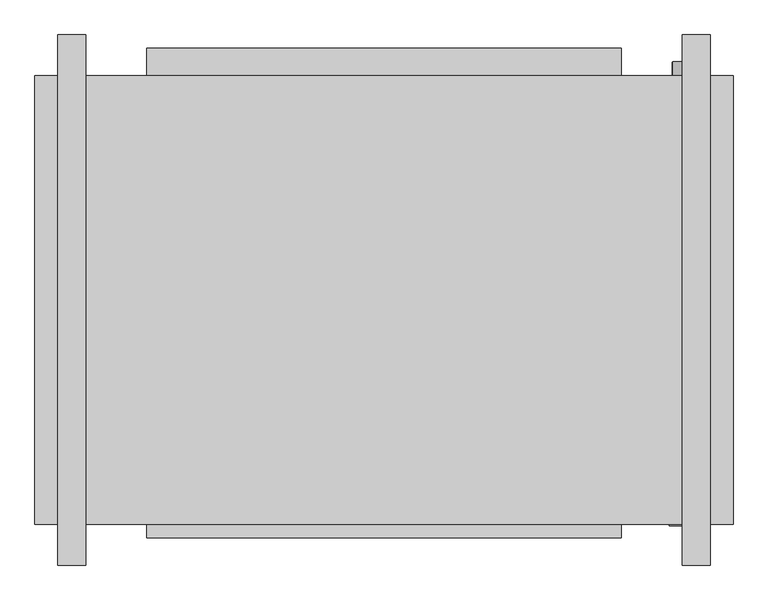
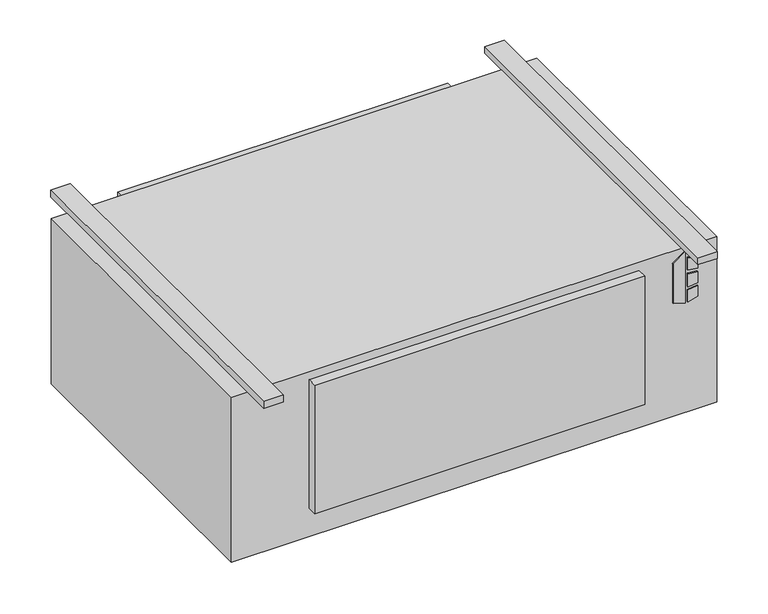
"""IFC4 building model written with IfcOpenShell, lengths in millimetres: proxy geometry, Concealed_High_Capacity_Horizontal_Cabinet_Fan_Coil_Unit_-_HXY_-_IEC_-_2-Pipe_Cool-EHeat_RH_2022 : Size 14 - 277v/60Hz/1Ph - 6 Row 10.0kW."""

import ifcopenshell
import ifcopenshell.guid

model = None  # the IFC model being written
_history = None  # IfcOwnerHistory: only IFC2X3 demands one
_inside = {}  # id of a spatial element -> (the spatial element, [elements in it])
_under = {}  # id of a project, library or spatial element -> (it, [spatial elements below it])
_declared = {}  # id of a project -> (the project, [libraries it declares])
_typed = {}  # id of a type object -> (the type object, [elements of that type])
_made_of = {}  # id of a material, layer set ... -> (it, [elements and type objects made of it])


def new_model(schema):
    """Start an empty IFC model of exactly this schema.

    Asked for "IFC4X3", IfcOpenShell would pick the latest addendum, in which some entities
    have other attributes; the version numbers below select the first issue.
    IFC2X3 requires an IfcOwnerHistory on every rooted entity: one is made here for all.
    """
    global model, _history
    if schema == "IFC4X3":
        model = ifcopenshell.file(schema_version=(4, 3, 0, 0))
    else:
        model = ifcopenshell.file(schema=schema)
    _inside.clear()
    _under.clear()
    _declared.clear()
    _typed.clear()
    _made_of.clear()
    _history = None
    if model.schema == "IFC2X3":
        org = make("IfcOrganization", Name="unknown")
        user = make(
            "IfcPersonAndOrganization",
            ThePerson=make("IfcPerson", FamilyName="unknown"),
            TheOrganization=org,
        )
        app = make(
            "IfcApplication",
            ApplicationDeveloper=org,
            Version="unknown",
            ApplicationFullName="unknown",
            ApplicationIdentifier="unknown",
        )
        _history = make(
            "IfcOwnerHistory",
            OwningUser=user,
            OwningApplication=app,
            ChangeAction="ADDED",
            CreationDate=0,
        )
    return model


def make(cls, **values):
    """One entity of the class cls with the attributes given. An attribute that is None is left unset."""
    return model.create_entity(
        cls, **{name: value for name, value in values.items() if value is not None}
    )


def rooted(cls, **values):
    """An entity with a GlobalId (a new one), such as an element, a storey or a relation."""
    return make(cls, GlobalId=ifcopenshell.guid.new(), OwnerHistory=_history, **values)


def si_unit(unit_type, name, prefix=None):
    """IfcSIUnit, for example si_unit("LENGTHUNIT", "METRE", prefix="MILLI")."""
    return make("IfcSIUnit", UnitType=unit_type, Prefix=prefix, Name=name)


def assignment(units):
    """IfcUnitAssignment: the units of a project."""
    return None if units is None else make("IfcUnitAssignment", Units=units)


def point(xyz):
    """IfcCartesianPoint."""
    return None if xyz is None else make("IfcCartesianPoint", Coordinates=xyz)


def direction(xyz):
    """IfcDirection."""
    return None if xyz is None else make("IfcDirection", DirectionRatios=xyz)


def frame(location, z_axis=None, x_axis=None):
    """IfcAxis2Placement3D, a coordinate frame: its origin and axes. An axis left out is left unset."""
    return make(
        "IfcAxis2Placement3D",
        Location=point(location),
        Axis=direction(z_axis),
        RefDirection=direction(x_axis),
    )


def frame_2d(location, x_axis=None):
    """IfcAxis2Placement2D, a coordinate frame in the plane: its origin and x axis."""
    return make(
        "IfcAxis2Placement2D", Location=point(location), RefDirection=direction(x_axis)
    )


def origin():
    """The frame at (0, 0, 0) with its axes left unset."""
    return frame((0.0, 0.0, 0.0))


def origin_with_axes():
    """The frame at (0, 0, 0) with the z axis (0, 0, 1) and the x axis (1, 0, 0) written out."""
    return frame((0.0, 0.0, 0.0), z_axis=(0.0, 0.0, 1.0), x_axis=(1.0, 0.0, 0.0))


def place(relative_to, where):
    """IfcLocalPlacement: puts the frame where relative to a parent placement (None: the world)."""
    return make(
        "IfcLocalPlacement", PlacementRelTo=relative_to, RelativePlacement=where
    )


def context(
    kind, dimensions, precision=None, world=None, true_north=None, identifier=None
):
    """IfcGeometricRepresentationContext, for example the 3D "Model" context."""
    return make(
        "IfcGeometricRepresentationContext",
        ContextIdentifier=identifier,
        ContextType=kind,
        CoordinateSpaceDimension=dimensions,
        Precision=precision,
        WorldCoordinateSystem=world,
        TrueNorth=true_north,
    )


def project(units=None, contexts=None):
    """IfcProject with its units and contexts."""
    return rooted(
        "IfcProject",
        Name="project",
        RepresentationContexts=contexts,
        UnitsInContext=assignment(units),
    )


def spatial(cls, under=None, at=None, **own):
    """A site, building, storey or space (cls), placed at a placement, below another one or the project."""
    s = rooted(cls, ObjectPlacement=at, **own)
    if under is not None:
        _under.setdefault(under.id(), (under, []))[1].append(s)
    return s


def polyline(points):
    """IfcPolyline through the points."""
    return make("IfcPolyline", Points=[point(p) for p in points])


def circle_curve(where, radius):
    """IfcCircle in the frame where."""
    return make("IfcCircle", Position=where, Radius=radius)


def trimmed(basis, trim1, trim2, sense, master):
    """IfcTrimmedCurve: the piece of a basis curve between two trims."""
    return make(
        "IfcTrimmedCurve",
        BasisCurve=basis,
        Trim1=trim1,
        Trim2=trim2,
        SenseAgreement=sense,
        MasterRepresentation=master,
    )


def segment(curve, same_sense, transition):
    """IfcCompositeCurveSegment."""
    return make(
        "IfcCompositeCurveSegment",
        Transition=transition,
        SameSense=same_sense,
        ParentCurve=curve,
    )


def composite_curve(segments, self_intersect=None):
    """IfcCompositeCurve: segments joined end to end."""
    return make("IfcCompositeCurve", Segments=segments, SelfIntersect=self_intersect)


def outline(outer, holes=None, kind="AREA"):
    """IfcArbitraryClosedProfileDef: a profile drawn as a closed curve; with holes, ...WithVoids."""
    if holes is None:
        return make("IfcArbitraryClosedProfileDef", ProfileType=kind, OuterCurve=outer)
    return make(
        "IfcArbitraryProfileDefWithVoids",
        ProfileType=kind,
        OuterCurve=outer,
        InnerCurves=holes,
    )


def extrude(swept, where, along, depth):
    """IfcExtrudedAreaSolid: the profile swept, set in the frame where, extruded along a direction by depth."""
    return make(
        "IfcExtrudedAreaSolid",
        SweptArea=swept,
        Position=where,
        ExtrudedDirection=direction(along),
        Depth=depth,
    )


def shape(context_of_items, identifier, shape_type, items):
    """IfcShapeRepresentation: the items that make up one representation, for example the "Body"."""
    return make(
        "IfcShapeRepresentation",
        ContextOfItems=context_of_items,
        RepresentationIdentifier=identifier,
        RepresentationType=shape_type,
        Items=items,
    )


def source(mapping_origin, context_of_items, identifier, shape_type, items):
    """IfcRepresentationMap: a shape defined once, which mapped items show again and again."""
    return make(
        "IfcRepresentationMap",
        MappingOrigin=mapping_origin,
        MappedRepresentation=shape(context_of_items, identifier, shape_type, items),
    )


def transform(
    local_origin,
    x_axis=None,
    y_axis=None,
    z_axis=None,
    scale=None,
    scale2=None,
    scale3=None,
    uniform=True,
):
    """IfcCartesianTransformationOperator3D, or its non-uniform kind. x_axis, y_axis, z_axis: its Axis1, 2, 3."""
    if uniform:
        return make(
            "IfcCartesianTransformationOperator3D",
            Axis1=direction(x_axis),
            Axis2=direction(y_axis),
            LocalOrigin=point(local_origin),
            Scale=scale,
            Axis3=direction(z_axis),
        )
    return make(
        "IfcCartesianTransformationOperator3DnonUniform",
        Axis1=direction(x_axis),
        Axis2=direction(y_axis),
        LocalOrigin=point(local_origin),
        Scale=scale,
        Axis3=direction(z_axis),
        Scale2=scale2,
        Scale3=scale3,
    )


def mapped(mapping_source, mapping_target):
    """IfcMappedItem: shows the shape of a source again, moved by a transform."""
    return make(
        "IfcMappedItem", MappingSource=mapping_source, MappingTarget=mapping_target
    )


def made_of(thing, what):
    """Note that an element or type object is made of a material, layer set ...; save() writes the relation."""
    if what is not None:
        _made_of.setdefault(what.id(), (what, []))[1].append(thing)
    return thing


def element(
    cls,
    number,
    at=None,
    inside=None,
    cuts=None,
    type_object=None,
    material=None,
    context=None,
    identifier="Body",
    shape_type=None,
    held_by="IfcProductDefinitionShape",
    body=None,
    shapes=None,
    **own,
):
    """One element of the class cls, such as IfcWall. Its Tag is "e" and its number.

    at: its placement. inside: the storey or other place that contains it. cuts: it is an
    opening in that element (IfcRelVoidsElement). A single representation is given by context,
    identifier, shape_type and body (its items); several are given by shapes. held_by: the class
    of the entity that holds the representations. save() writes the other relations.
    """
    e = rooted(cls, Tag="e%d" % number, ObjectPlacement=at, **own)
    if body is not None:
        shapes = [shape(context, identifier, shape_type, body)]
    if shapes is not None:
        e.Representation = make(held_by, Representations=shapes)
    if inside is not None:
        _inside.setdefault(inside.id(), (inside, []))[1].append(e)
    if cuts is not None:
        rooted(
            "IfcRelVoidsElement", RelatingBuildingElement=cuts, RelatedOpeningElement=e
        )
    if type_object is not None:
        _typed.setdefault(type_object.id(), (type_object, []))[1].append(e)
    return made_of(e, material)


def aggregate(whole, parts):
    """IfcRelAggregates: a whole, such as a stair, and the parts it consists of."""
    return rooted("IfcRelAggregates", RelatingObject=whole, RelatedObjects=parts)


def save(model, path):
    """Write the relations noted so far, then the file.

    IfcRelAggregates (storeys below a building ...), IfcRelContainedInSpatialStructure (elements
    in a storey), IfcRelDefinesByType, IfcRelAssociatesMaterial and IfcRelDeclares: one each for
    every whole, place, type object, material and project.
    """
    for whole, parts in _under.values():
        aggregate(whole, parts)
    for where, things in _inside.values():
        rooted(
            "IfcRelContainedInSpatialStructure",
            RelatedElements=things,
            RelatingStructure=where,
        )
    for kind, things in _typed.values():
        rooted("IfcRelDefinesByType", RelatedObjects=things, RelatingType=kind)
    for what, things in _made_of.values():
        rooted("IfcRelAssociatesMaterial", RelatedObjects=things, RelatingMaterial=what)
    for by, libraries in _declared.values():
        rooted("IfcRelDeclares", RelatingContext=by, RelatedDefinitions=libraries)
    model.write(path)


def mechanical_equipment_c078d1ac(model_context):
    return source(origin(), model_context, "Body", "SweptSolid", [
        extrude(outline(polyline([(-142.4519297, 671.5868862), (-152.4, 703.7602728), (-10.2290756, 703.7602728), (-33.2510817, 671.5868862), (-142.4519297, 671.5868862)])), frame((0.0, -649.2875, 0.0), z_axis=(0.0, 1.0, 0.0), x_axis=(0.0, 0.0, 1.0)), (0.0, 0.0, 1.0), 3.175),
        extrude(outline(polyline([(-63.4526443, 710.5186058), (-66.6550368, 736.6), (-37.4261958, 736.6), (-29.3617807, 710.5186058), (-63.4526443, 710.5186058)])), frame((0.0, -649.2875, 0.0), z_axis=(0.0, 1.0, 0.0), x_axis=(0.0, 0.0, 1.0)), (0.0, 0.0, 1.0), 3.175),
        extrude(outline(polyline([(-115.3161712, 736.6), (-118.9816721, 710.5186058), (-152.4, 710.5186058), (-143.7657628, 736.6), (-115.3161712, 736.6)])), frame((0.0, -649.2875, 0.0), z_axis=(0.0, 1.0, 0.0), x_axis=(0.0, 0.0, 1.0)), (0.0, 0.0, 1.0), 3.175),
        extrude(outline(polyline([(-76.0010097, 736.6), (-73.7191834, 710.5186058), (-109.6567319, 710.5186058), (-106.9154669, 736.6), (-76.0010097, 736.6)])), frame((0.0, -649.2875, 0.0), z_axis=(0.0, 1.0, 0.0), x_axis=(0.0, 0.0, 1.0)), (0.0, 0.0, 1.0), 3.175),
        extrude(outline(composite_curve([segment(trimmed(circle_curve(frame_2d((-406.4, 685.8)), 9.525), [point((-406.4, 676.275))], [point((-406.4, 695.325))], False, "CARTESIAN"), True, "CONTINUOUS"), segment(trimmed(circle_curve(frame_2d((-406.4, 685.8)), 9.525), [point((-406.4, 695.325))], [point((-406.4, 676.275))], False, "CARTESIAN"), True, "CONTINUOUS")], self_intersect=False)), frame((0.0, 169.8625, 0.0), z_axis=(0.0, 1.0, 0.0), x_axis=(0.0, 0.0, 1.0)), (0.0, 0.0, 1.0), 25.4),
        extrude(outline(composite_curve([segment(trimmed(circle_curve(frame_2d((-330.2, 685.8)), 7.9375), [point((-330.2, 677.8625))], [point((-330.2, 693.7375))], False, "CARTESIAN"), True, "CONTINUOUS"), segment(trimmed(circle_curve(frame_2d((-330.2, 685.8)), 7.9375), [point((-330.2, 693.7375))], [point((-330.2, 677.8625))], False, "CARTESIAN"), True, "CONTINUOUS")], self_intersect=False)), frame((0.0, 169.8625, 0.0), z_axis=(0.0, 1.0, 0.0), x_axis=(0.0, 0.0, 1.0)), (0.0, 0.0, 1.0), 25.4),
        extrude(outline(composite_curve([segment(trimmed(circle_curve(frame_2d((-254.0, 685.8)), 7.9375), [point((-254.0, 677.8625))], [point((-254.0, 693.7375))], False, "CARTESIAN"), True, "CONTINUOUS"), segment(trimmed(circle_curve(frame_2d((-254.0, 685.8)), 7.9375), [point((-254.0, 693.7375))], [point((-254.0, 677.8625))], False, "CARTESIAN"), True, "CONTINUOUS")], self_intersect=False)), frame((0.0, 169.8625, 0.0), z_axis=(0.0, 1.0, 0.0), x_axis=(0.0, 0.0, 1.0)), (0.0, 0.0, 1.0), 25.4),
        extrude(outline(polyline([(787.4, 169.8625), (787.4, -646.1125), (-482.6, -646.1125), (-482.6, 169.8625), (787.4, 169.8625)])), frame((0.0, 0.0, -457.2), z_axis=(0.0, 0.0, 1.0), x_axis=(1.0, 0.0, 0.0)), (0.0, 0.0, 1.0), 457.2),
        extrude(outline(polyline([(-279.4, 220.6625), (584.2, 220.6625), (584.2, 169.8625), (-279.4, 169.8625), (-279.4, 220.6625)])), frame((0.0, 0.0, -377.825), z_axis=(0.0, 0.0, 1.0), x_axis=(1.0, 0.0, 0.0)), (0.0, 0.0, 1.0), 349.25),
        extrude(outline(polyline([(-390.525, 244.475), (-390.525, -720.725), (-441.325, -720.725), (-441.325, 244.475), (-390.525, 244.475)])), origin_with_axes(), (0.0, 0.0, 1.0), 19.05),
        extrude(outline(polyline([(746.125, 244.475), (746.125, -720.725), (695.325, -720.725), (695.325, 244.475), (746.125, 244.475)])), origin_with_axes(), (0.0, 0.0, 1.0), 19.05),
        extrude(outline(polyline([(584.2, -671.5125), (-279.4, -671.5125), (-279.4, -646.1125), (584.2, -646.1125), (584.2, -671.5125)])), frame((0.0, 0.0, -377.825), z_axis=(0.0, 0.0, 1.0), x_axis=(1.0, 0.0, 0.0)), (0.0, 0.0, 1.0), 355.6),
    ])


if __name__ == "__main__":
    model = new_model("IFC4")
    model_context = context("Model", 3, world=origin())
    ifc_project = project(units=[si_unit("LENGTHUNIT", "METRE", prefix="MILLI")], contexts=[model_context])
    site = spatial("IfcSite", under=ifc_project)
    building = spatial("IfcBuilding", under=site)
    placement = place(None, origin())
    mechanical_equipment_shape = mechanical_equipment_c078d1ac(model_context)
    element("IfcBuildingElementProxy", 1, Name="Concealed_High_Capacity_Horizontal_Cabinet_Fan_Coil_Unit_-_HXY_-_IEC_-_2-Pipe_Cool-EHeat_RH_2022 : Size 14 - 277v/60Hz/1Ph - 6 Row 10.0kW", ObjectType="Concealed_High_Capacity_Horizontal_Cabinet_Fan_Coil_Unit_-_HXY_-_IEC_-_2-Pipe_Cool-EHeat_RH_2022 : Size 14 - 277v/60Hz/1Ph - 6 Row 10.0kW", at=placement, inside=building, context=model_context, shape_type="MappedRepresentation", body=[
        mapped(mechanical_equipment_shape, transform((0.0, 0.0, 0.0), x_axis=(1.0, 0.0, 0.0), y_axis=(0.0, 1.0, 0.0), z_axis=(0.0, 0.0, 1.0))),
    ])
    save(model, "model.ifc")
